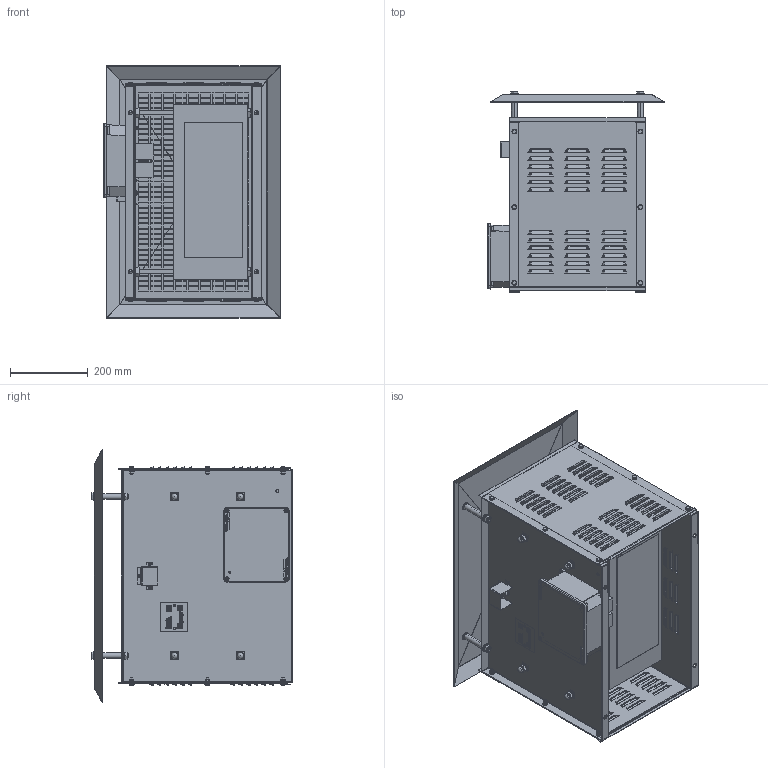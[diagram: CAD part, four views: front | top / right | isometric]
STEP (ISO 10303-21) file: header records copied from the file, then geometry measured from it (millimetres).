
FILE_DESCRIPTION(/* description */ (''),/* implementation_level */ '2;1');
FILE_NAME(/* name */ 'C:\_Vault\Dati\CATALOGO\RX\RX Catalogue New\RX 35S UL\RX 35s RMS 6 (A)-UL_Armatura_Esterna.stp',/* time_stamp */ '2022-03-23T10:09:10+01:00',/* author */ ('claudio'),/* organization */ ('Fairfild Srl'),/* preprocessor_version */ 'ST-DEVELOPER v18.1',/* originating_system */ 'Autodesk Inventor 2022',/* authorisation */ '');
FILE_SCHEMA (('AUTOMOTIVE_DESIGN { 1 0 10303 214 3 1 1 }'));
Products named in the file (1): RX 35s RMS 6 (A)-UL_Armatura_Esterna
Bounding box: 456.9 x 519.3 x 650.28 mm (x, y, z)
Volume: 20629528.6 mm3; surface area: 3389317 mm2
Topology: 1 solids, 53 shells, 8114 faces, 21031 edges, 13082 vertices
Faces by surface type: plane 5179, cylinder 1375, bspline 965, cone 550, sphere 31, torus 14
Full cylindrical faces by diameter (mm): 1.9 x2, 4 x1, 4.2 x6, 4.3 x1, 4.5 x3, 5 x8, 5.3 x4, 5.5 x4, 6 x36, 6.4 x24, 8.2 x1, 8.376 x8, 9 x4, 10 x6, 10.5 x4, 11 x18, 12.5 x24, 14.5 x1, 15 x8, 16 x9, 21 x16
Entity records: 264222 total; most frequent: CARTESIAN_POINT 61903, ORIENTED_EDGE 41978, DIRECTION 36841, EDGE_CURVE 20989, LINE 14797, VECTOR 14797, VERTEX_POINT 13082, AXIS2_PLACEMENT_3D 11022
